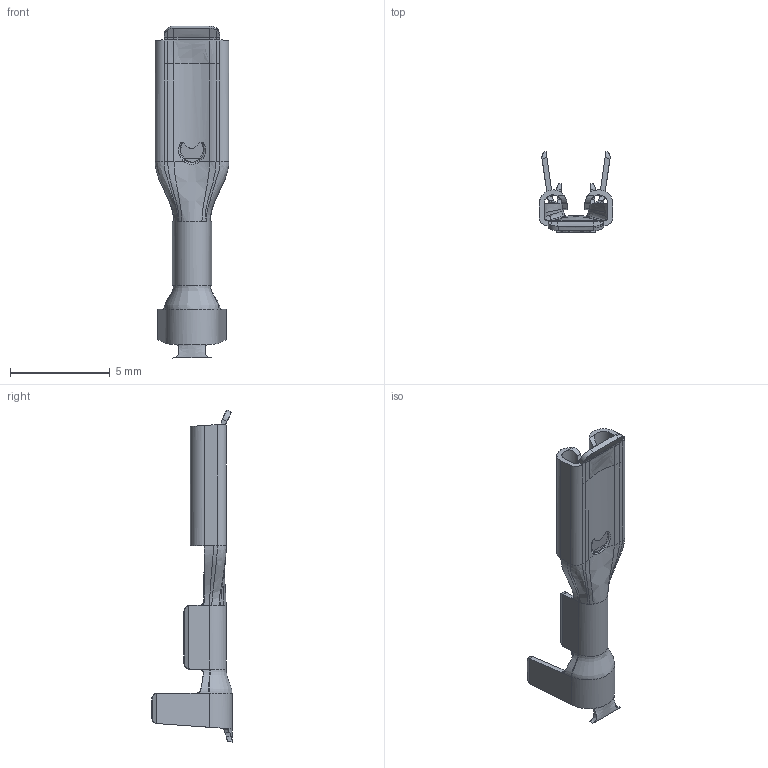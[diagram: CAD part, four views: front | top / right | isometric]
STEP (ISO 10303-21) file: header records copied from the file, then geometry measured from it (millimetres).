
FILE_DESCRIPTION((''),'2;1');
FILE_NAME('TP11015K-','2024-05-29T15:13:48',('JSB-3566'),(''),'CREO PARAMETRIC BY PTC INC, 2018050','CREO PARAMETRIC BY PTC INC, 2018050','');
FILE_SCHEMA(('CONFIG_CONTROL_DESIGN','SHAPE_APPEARANCE_LAYERS_GROUPS'));
Length unit declared in the file: millimetre
Products named in the file (1): TP11015K-
Bounding box: 3.7 x 4.04 x 16.66 mm (x, y, z)
Volume: 26.2 mm3; surface area: 233.9 mm2
Topology: 1 solids, 2 shells, 217 faces, 549 edges, 335 vertices
Faces by surface type: plane 83, bspline 83, cylinder 45, torus 4, extrusion 2
Entity records: 14888 total; most frequent: CARTESIAN_POINT 8556, ORIENTED_EDGE 1086, DIRECTION 675, PRESENTATION_STYLE_ASSIGNMENT 551, STYLED_ITEM 551, CURVE_STYLE 549, EDGE_CURVE 549, VERTEX_POINT 335
